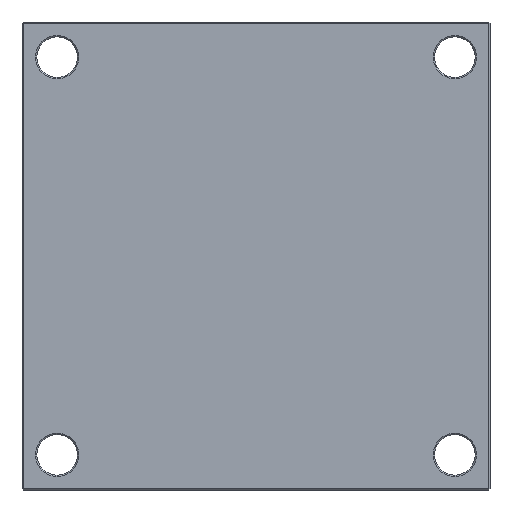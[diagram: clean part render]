
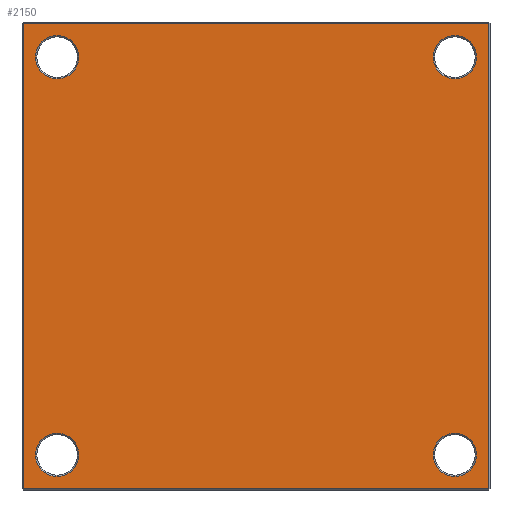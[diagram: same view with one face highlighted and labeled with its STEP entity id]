
A CAD part, front view. The second image highlights one B-rep face of the part: STEP entity #2150.
In plain terms, the highlighted planar face has unit normal (0, -1, 0).
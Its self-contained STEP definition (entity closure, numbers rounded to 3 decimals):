
#1 = DIRECTION ( 'NONE',  ( 1., 0., 0. ) ) ;
#8 = CARTESIAN_POINT ( 'NONE',  ( -172., 0., 172. ) ) ;
#23 = DIRECTION ( 'NONE',  ( 0., 1., 0. ) ) ;
#31 = CARTESIAN_POINT ( 'NONE',  ( 172., 0., 0. ) ) ;
#33 = CARTESIAN_POINT ( 'NONE',  ( -147., 0., -131. ) ) ;
#41 = VERTEX_POINT ( 'NONE', #670 ) ;
#43 = DIRECTION ( 'NONE',  ( 0., 0., 1. ) ) ;
#48 = FACE_OUTER_BOUND ( 'NONE', #1222, .T. ) ;
#69 = DIRECTION ( 'NONE',  ( -1., 0., 0. ) ) ;
#77 = VECTOR ( 'NONE', #633, 1000. ) ;
#80 = DIRECTION ( 'NONE',  ( 0., 1., 0. ) ) ;
#86 = DIRECTION ( 'NONE',  ( 0., 0., 1. ) ) ;
#106 = DIRECTION ( 'NONE',  ( 0., 0., 1. ) ) ;
#130 = ORIENTED_EDGE ( 'NONE', *, *, #1771, .T. ) ;
#183 = ORIENTED_EDGE ( 'NONE', *, *, #739, .T. ) ;
#185 = CARTESIAN_POINT ( 'NONE',  ( -147., 0., 131. ) ) ;
#209 = ORIENTED_EDGE ( 'NONE', *, *, #1918, .T. ) ;
#220 = DIRECTION ( 'NONE',  ( 0., 1., 0. ) ) ;
#245 = VERTEX_POINT ( 'NONE', #1183 ) ;
#299 = VECTOR ( 'NONE', #106, 1000. ) ;
#315 = DIRECTION ( 'NONE',  ( 0., 1., 0. ) ) ;
#327 = CIRCLE ( 'NONE', #356, 16. ) ;
#341 = EDGE_LOOP ( 'NONE', ( #402, #1654 ) ) ;
#345 = VERTEX_POINT ( 'NONE', #1542 ) ;
#356 = AXIS2_PLACEMENT_3D ( 'NONE', #1157, #1164, #43 ) ;
#386 = CARTESIAN_POINT ( 'NONE',  ( 0., 0., -172. ) ) ;
#402 = ORIENTED_EDGE ( 'NONE', *, *, #1781, .T. ) ;
#451 = CARTESIAN_POINT ( 'NONE',  ( 147., 0., -163. ) ) ;
#472 = AXIS2_PLACEMENT_3D ( 'NONE', #1333, #1308, #1584 ) ;
#507 = FACE_BOUND ( 'NONE', #1555, .T. ) ;
#537 = AXIS2_PLACEMENT_3D ( 'NONE', #1656, #1775, #1817 ) ;
#553 = CIRCLE ( 'NONE', #1730, 16. ) ;
#591 = CARTESIAN_POINT ( 'NONE',  ( -172., 0., 0. ) ) ;
#595 = CARTESIAN_POINT ( 'NONE',  ( -147., 0., 147. ) ) ;
#618 = ORIENTED_EDGE ( 'NONE', *, *, #757, .T. ) ;
#633 = DIRECTION ( 'NONE',  ( 0., 0., -1. ) ) ;
#651 = CIRCLE ( 'NONE', #1892, 16. ) ;
#652 = AXIS2_PLACEMENT_3D ( 'NONE', #1321, #80, #86 ) ;
#670 = CARTESIAN_POINT ( 'NONE',  ( -147., 0., -163. ) ) ;
#739 = EDGE_CURVE ( 'NONE', #1500, #245, #825, .T. ) ;
#743 = DIRECTION ( 'NONE',  ( 0., 0., 1. ) ) ;
#756 = CARTESIAN_POINT ( 'NONE',  ( -147., 0., 163. ) ) ;
#757 = EDGE_CURVE ( 'NONE', #1449, #1204, #2051, .T. ) ;
#785 = EDGE_CURVE ( 'NONE', #1729, #1449, #1624, .T. ) ;
#803 = VERTEX_POINT ( 'NONE', #1089 ) ;
#807 = CARTESIAN_POINT ( 'NONE',  ( 172., 0., -172. ) ) ;
#821 = CIRCLE ( 'NONE', #1600, 16. ) ;
#825 = CIRCLE ( 'NONE', #652, 16. ) ;
#846 = DIRECTION ( 'NONE',  ( 0., 0., 1. ) ) ;
#934 = FACE_BOUND ( 'NONE', #2167, .T. ) ;
#1040 = VERTEX_POINT ( 'NONE', #451 ) ;
#1047 = CIRCLE ( 'NONE', #472, 16. ) ;
#1081 = ORIENTED_EDGE ( 'NONE', *, *, #2111, .T. ) ;
#1089 = CARTESIAN_POINT ( 'NONE',  ( 147., 0., -131. ) ) ;
#1128 = VERTEX_POINT ( 'NONE', #33 ) ;
#1132 = CARTESIAN_POINT ( 'NONE',  ( 172., 0., 172. ) ) ;
#1137 = DIRECTION ( 'NONE',  ( 0., 1., 0. ) ) ;
#1157 = CARTESIAN_POINT ( 'NONE',  ( -147., 0., -147. ) ) ;
#1164 = DIRECTION ( 'NONE',  ( 0., 1., 0. ) ) ;
#1180 = CARTESIAN_POINT ( 'NONE',  ( 147., 0., 147. ) ) ;
#1183 = CARTESIAN_POINT ( 'NONE',  ( 147., 0., 163. ) ) ;
#1192 = VECTOR ( 'NONE', #1, 1000. ) ;
#1194 = VECTOR ( 'NONE', #69, 1000. ) ;
#1202 = ORIENTED_EDGE ( 'NONE', *, *, #1295, .T. ) ;
#1204 = VERTEX_POINT ( 'NONE', #8 ) ;
#1222 = EDGE_LOOP ( 'NONE', ( #1344, #618, #209, #1202 ) ) ;
#1286 = CARTESIAN_POINT ( 'NONE',  ( 0., 0., 172. ) ) ;
#1295 = EDGE_CURVE ( 'NONE', #345, #1729, #1620, .T. ) ;
#1304 = CARTESIAN_POINT ( 'NONE',  ( -147., 0., 147. ) ) ;
#1308 = DIRECTION ( 'NONE',  ( 0., 1., 0. ) ) ;
#1318 = EDGE_CURVE ( 'NONE', #1854, #1967, #821, .T. ) ;
#1321 = CARTESIAN_POINT ( 'NONE',  ( 147., 0., 147. ) ) ;
#1333 = CARTESIAN_POINT ( 'NONE',  ( -147., 0., -147. ) ) ;
#1334 = PLANE ( 'NONE',  #1668 ) ;
#1344 = ORIENTED_EDGE ( 'NONE', *, *, #785, .T. ) ;
#1355 = FACE_BOUND ( 'NONE', #341, .T. ) ;
#1383 = CARTESIAN_POINT ( 'NONE',  ( 0., 0., 0. ) ) ;
#1439 = LINE ( 'NONE', #591, #77 ) ;
#1449 = VERTEX_POINT ( 'NONE', #1132 ) ;
#1463 = CIRCLE ( 'NONE', #1800, 16. ) ;
#1500 = VERTEX_POINT ( 'NONE', #1528 ) ;
#1509 = CARTESIAN_POINT ( 'NONE',  ( 147., 0., -147. ) ) ;
#1528 = CARTESIAN_POINT ( 'NONE',  ( 147., 0., 131. ) ) ;
#1542 = CARTESIAN_POINT ( 'NONE',  ( -172., 0., -172. ) ) ;
#1555 = EDGE_LOOP ( 'NONE', ( #1557, #1684 ) ) ;
#1557 = ORIENTED_EDGE ( 'NONE', *, *, #1318, .T. ) ;
#1561 = DIRECTION ( 'NONE',  ( 0., 0., 1. ) ) ;
#1570 = DIRECTION ( 'NONE',  ( 0., 1., 0. ) ) ;
#1584 = DIRECTION ( 'NONE',  ( 0., 0., 1. ) ) ;
#1600 = AXIS2_PLACEMENT_3D ( 'NONE', #1304, #1137, #743 ) ;
#1620 = LINE ( 'NONE', #386, #1192 ) ;
#1624 = LINE ( 'NONE', #31, #299 ) ;
#1654 = ORIENTED_EDGE ( 'NONE', *, *, #2079, .T. ) ;
#1656 = CARTESIAN_POINT ( 'NONE',  ( 147., 0., -147. ) ) ;
#1659 = EDGE_LOOP ( 'NONE', ( #2026, #130 ) ) ;
#1668 = AXIS2_PLACEMENT_3D ( 'NONE', #1383, #220, #1867 ) ;
#1684 = ORIENTED_EDGE ( 'NONE', *, *, #2131, .T. ) ;
#1729 = VERTEX_POINT ( 'NONE', #807 ) ;
#1730 = AXIS2_PLACEMENT_3D ( 'NONE', #595, #23, #846 ) ;
#1745 = DIRECTION ( 'NONE',  ( 0., 0., 1. ) ) ;
#1771 = EDGE_CURVE ( 'NONE', #1128, #41, #1047, .T. ) ;
#1775 = DIRECTION ( 'NONE',  ( 0., 1., 0. ) ) ;
#1781 = EDGE_CURVE ( 'NONE', #1040, #803, #1953, .T. ) ;
#1800 = AXIS2_PLACEMENT_3D ( 'NONE', #1180, #315, #1561 ) ;
#1817 = DIRECTION ( 'NONE',  ( 0., 0., 1. ) ) ;
#1838 = FACE_BOUND ( 'NONE', #1659, .T. ) ;
#1839 = EDGE_CURVE ( 'NONE', #41, #1128, #327, .T. ) ;
#1854 = VERTEX_POINT ( 'NONE', #185 ) ;
#1867 = DIRECTION ( 'NONE',  ( 0., 0., 1. ) ) ;
#1892 = AXIS2_PLACEMENT_3D ( 'NONE', #1509, #1570, #1745 ) ;
#1918 = EDGE_CURVE ( 'NONE', #1204, #345, #1439, .T. ) ;
#1953 = CIRCLE ( 'NONE', #537, 16. ) ;
#1967 = VERTEX_POINT ( 'NONE', #756 ) ;
#2026 = ORIENTED_EDGE ( 'NONE', *, *, #1839, .T. ) ;
#2051 = LINE ( 'NONE', #1286, #1194 ) ;
#2079 = EDGE_CURVE ( 'NONE', #803, #1040, #651, .T. ) ;
#2111 = EDGE_CURVE ( 'NONE', #245, #1500, #1463, .T. ) ;
#2131 = EDGE_CURVE ( 'NONE', #1967, #1854, #553, .T. ) ;
#2150 = ADVANCED_FACE ( 'NONE', ( #1838, #1355, #934, #507, #48 ), #1334, .F. ) ;
#2167 = EDGE_LOOP ( 'NONE', ( #183, #1081 ) ) ;
